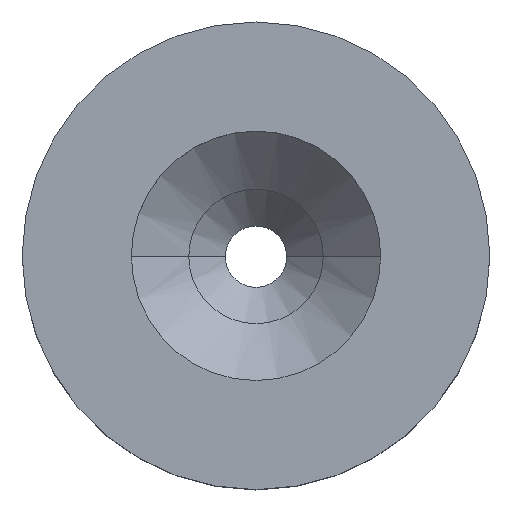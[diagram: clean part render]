
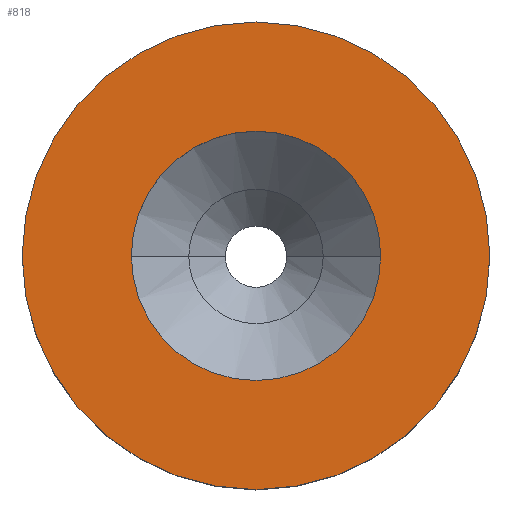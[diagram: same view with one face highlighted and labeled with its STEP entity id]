
A CAD part, top view. The second image highlights one B-rep face of the part: STEP entity #818.
In plain terms, the highlighted planar face has unit normal (0, 0, 1).
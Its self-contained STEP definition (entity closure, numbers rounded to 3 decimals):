
#48 = PLANE ( 'NONE',  #81 ) ;
#69 = CARTESIAN_POINT ( 'NONE',  ( 4., 0., 0. ) ) ;
#81 = AXIS2_PLACEMENT_3D ( 'NONE', #278, #740, #932 ) ;
#87 = CIRCLE ( 'NONE', #747, 4. ) ;
#98 = CARTESIAN_POINT ( 'NONE',  ( -7.5, 0., 0. ) ) ;
#123 = DIRECTION ( 'NONE',  ( 0., 0., 1. ) ) ;
#134 = ORIENTED_EDGE ( 'NONE', *, *, #475, .F. ) ;
#199 = CIRCLE ( 'NONE', #554, 7.5 ) ;
#211 = CARTESIAN_POINT ( 'NONE',  ( 0., 0., 0. ) ) ;
#225 = EDGE_CURVE ( 'NONE', #790, #687, #87, .T. ) ;
#253 = ORIENTED_EDGE ( 'NONE', *, *, #536, .T. ) ;
#278 = CARTESIAN_POINT ( 'NONE',  ( 0., 0., 0. ) ) ;
#284 = ORIENTED_EDGE ( 'NONE', *, *, #707, .T. ) ;
#296 = DIRECTION ( 'NONE',  ( 1., 0., 0. ) ) ;
#344 = AXIS2_PLACEMENT_3D ( 'NONE', #965, #951, #916 ) ;
#356 = CARTESIAN_POINT ( 'NONE',  ( -4., 0., 0. ) ) ;
#372 = CARTESIAN_POINT ( 'NONE',  ( 7.5, 0., 0. ) ) ;
#404 = CARTESIAN_POINT ( 'NONE',  ( 0., 0., 0. ) ) ;
#448 = CIRCLE ( 'NONE', #344, 4. ) ;
#475 = EDGE_CURVE ( 'NONE', #687, #790, #448, .T. ) ;
#479 = DIRECTION ( 'NONE',  ( 1., 0., 0. ) ) ;
#536 = EDGE_CURVE ( 'NONE', #596, #699, #718, .T. ) ;
#554 = AXIS2_PLACEMENT_3D ( 'NONE', #211, #944, #479 ) ;
#596 = VERTEX_POINT ( 'NONE', #372 ) ;
#629 = AXIS2_PLACEMENT_3D ( 'NONE', #721, #123, #296 ) ;
#678 = FACE_BOUND ( 'NONE', #713, .T. ) ;
#686 = EDGE_LOOP ( 'NONE', ( #253, #284 ) ) ;
#687 = VERTEX_POINT ( 'NONE', #69 ) ;
#699 = VERTEX_POINT ( 'NONE', #98 ) ;
#707 = EDGE_CURVE ( 'NONE', #699, #596, #199, .T. ) ;
#713 = EDGE_LOOP ( 'NONE', ( #134, #838 ) ) ;
#718 = CIRCLE ( 'NONE', #629, 7.5 ) ;
#721 = CARTESIAN_POINT ( 'NONE',  ( 0., 0., 0. ) ) ;
#740 = DIRECTION ( 'NONE',  ( 0., 0., -1. ) ) ;
#747 = AXIS2_PLACEMENT_3D ( 'NONE', #404, #911, #955 ) ;
#790 = VERTEX_POINT ( 'NONE', #356 ) ;
#818 = ADVANCED_FACE ( 'NONE', ( #678, #827 ), #48, .F. ) ;
#827 = FACE_OUTER_BOUND ( 'NONE', #686, .T. ) ;
#838 = ORIENTED_EDGE ( 'NONE', *, *, #225, .F. ) ;
#911 = DIRECTION ( 'NONE',  ( 0., 0., 1. ) ) ;
#916 = DIRECTION ( 'NONE',  ( 1., 0., 0. ) ) ;
#932 = DIRECTION ( 'NONE',  ( -1., 0., 0. ) ) ;
#944 = DIRECTION ( 'NONE',  ( 0., 0., 1. ) ) ;
#951 = DIRECTION ( 'NONE',  ( 0., 0., 1. ) ) ;
#955 = DIRECTION ( 'NONE',  ( 1., 0., 0. ) ) ;
#965 = CARTESIAN_POINT ( 'NONE',  ( 0., 0., 0. ) ) ;
